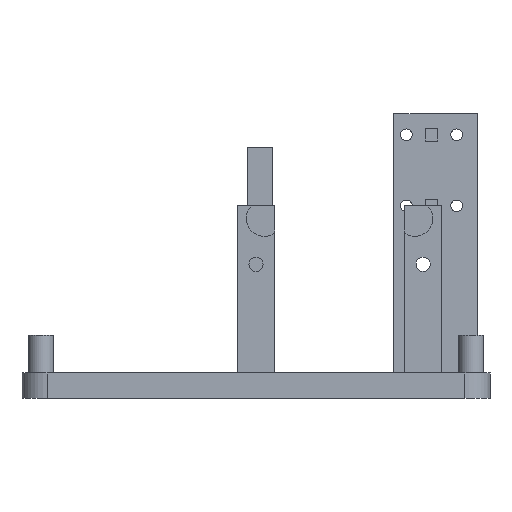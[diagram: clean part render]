
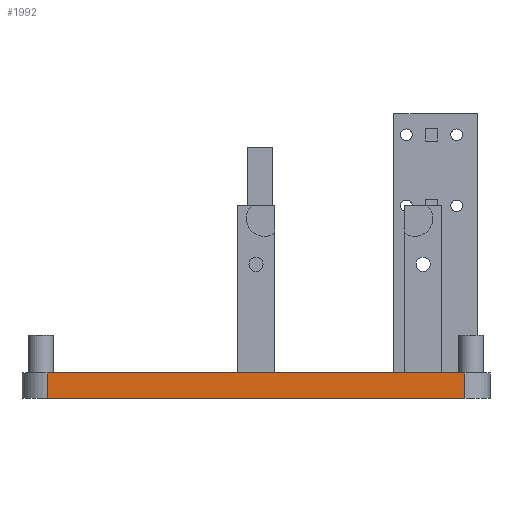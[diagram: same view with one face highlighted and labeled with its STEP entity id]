
A CAD part, front view. The second image highlights one B-rep face of the part: STEP entity #1992.
In plain terms, the highlighted planar face has unit normal (0, -1, 0).
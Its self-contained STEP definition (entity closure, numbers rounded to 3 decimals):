
#44 = PLANE('',#45);
#45 = AXIS2_PLACEMENT_3D('',#46,#47,#48);
#46 = CARTESIAN_POINT('',(-56.,-75.,6.));
#47 = DIRECTION('',(0.,0.,1.));
#48 = DIRECTION('',(1.,0.,0.));
#72 = CYLINDRICAL_SURFACE('',#73,6.);
#73 = AXIS2_PLACEMENT_3D('',#74,#75,#76);
#74 = CARTESIAN_POINT('',(-50.,-69.,0.));
#75 = DIRECTION('',(0.,0.,1.));
#76 = DIRECTION('',(-1.,-0.,0.));
#100 = PLANE('',#101);
#101 = AXIS2_PLACEMENT_3D('',#102,#103,#104);
#102 = CARTESIAN_POINT('',(-56.,-75.,0.));
#103 = DIRECTION('',(0.,0.,1.));
#104 = DIRECTION('',(1.,0.,0.));
#143 = VERTEX_POINT('',#144);
#144 = CARTESIAN_POINT('',(-50.,-75.,6.));
#166 = EDGE_CURVE('',#143,#167,#169,.T.);
#167 = VERTEX_POINT('',#168);
#168 = CARTESIAN_POINT('',(50.,-75.,6.));
#169 = SURFACE_CURVE('',#170,(#174,#181),.PCURVE_S1.);
#170 = LINE('',#171,#172);
#171 = CARTESIAN_POINT('',(-56.,-75.,6.));
#172 = VECTOR('',#173,1.);
#173 = DIRECTION('',(1.,0.,0.));
#174 = PCURVE('',#44,#175);
#175 = DEFINITIONAL_REPRESENTATION('',(#176),#180);
#176 = LINE('',#177,#178);
#177 = CARTESIAN_POINT('',(0.,0.));
#178 = VECTOR('',#179,1.);
#179 = DIRECTION('',(1.,0.));
#180 = ( GEOMETRIC_REPRESENTATION_CONTEXT(2) 
PARAMETRIC_REPRESENTATION_CONTEXT() REPRESENTATION_CONTEXT('2D SPACE',''
  ) );
#181 = PCURVE('',#182,#187);
#182 = PLANE('',#183);
#183 = AXIS2_PLACEMENT_3D('',#184,#185,#186);
#184 = CARTESIAN_POINT('',(-56.,-75.,0.));
#185 = DIRECTION('',(0.,1.,0.));
#186 = DIRECTION('',(0.,0.,1.));
#187 = DEFINITIONAL_REPRESENTATION('',(#188),#192);
#188 = LINE('',#189,#190);
#189 = CARTESIAN_POINT('',(6.,0.));
#190 = VECTOR('',#191,1.);
#191 = DIRECTION('',(0.,1.));
#192 = ( GEOMETRIC_REPRESENTATION_CONTEXT(2) 
PARAMETRIC_REPRESENTATION_CONTEXT() REPRESENTATION_CONTEXT('2D SPACE',''
  ) );
#215 = CYLINDRICAL_SURFACE('',#216,6.);
#216 = AXIS2_PLACEMENT_3D('',#217,#218,#219);
#217 = CARTESIAN_POINT('',(50.,-69.,0.));
#218 = DIRECTION('',(0.,0.,1.));
#219 = DIRECTION('',(1.,0.,-0.));
#1364 = VERTEX_POINT('',#1365);
#1365 = CARTESIAN_POINT('',(-50.,-75.,0.));
#1387 = EDGE_CURVE('',#1364,#143,#1388,.T.);
#1388 = SURFACE_CURVE('',#1389,(#1393,#1400),.PCURVE_S1.);
#1389 = LINE('',#1390,#1391);
#1390 = CARTESIAN_POINT('',(-50.,-75.,0.));
#1391 = VECTOR('',#1392,1.);
#1392 = DIRECTION('',(0.,0.,1.));
#1393 = PCURVE('',#72,#1394);
#1394 = DEFINITIONAL_REPRESENTATION('',(#1395),#1399);
#1395 = LINE('',#1396,#1397);
#1396 = CARTESIAN_POINT('',(1.571,0.));
#1397 = VECTOR('',#1398,1.);
#1398 = DIRECTION('',(0.,1.));
#1399 = ( GEOMETRIC_REPRESENTATION_CONTEXT(2) 
PARAMETRIC_REPRESENTATION_CONTEXT() REPRESENTATION_CONTEXT('2D SPACE',''
  ) );
#1400 = PCURVE('',#182,#1401);
#1401 = DEFINITIONAL_REPRESENTATION('',(#1402),#1406);
#1402 = LINE('',#1403,#1404);
#1403 = CARTESIAN_POINT('',(0.,6.));
#1404 = VECTOR('',#1405,1.);
#1405 = DIRECTION('',(1.,0.));
#1406 = ( GEOMETRIC_REPRESENTATION_CONTEXT(2) 
PARAMETRIC_REPRESENTATION_CONTEXT() REPRESENTATION_CONTEXT('2D SPACE',''
  ) );
#1469 = EDGE_CURVE('',#1364,#1470,#1472,.T.);
#1470 = VERTEX_POINT('',#1471);
#1471 = CARTESIAN_POINT('',(50.,-75.,0.));
#1472 = SURFACE_CURVE('',#1473,(#1477,#1484),.PCURVE_S1.);
#1473 = LINE('',#1474,#1475);
#1474 = CARTESIAN_POINT('',(-56.,-75.,0.));
#1475 = VECTOR('',#1476,1.);
#1476 = DIRECTION('',(1.,0.,0.));
#1477 = PCURVE('',#100,#1478);
#1478 = DEFINITIONAL_REPRESENTATION('',(#1479),#1483);
#1479 = LINE('',#1480,#1481);
#1480 = CARTESIAN_POINT('',(0.,0.));
#1481 = VECTOR('',#1482,1.);
#1482 = DIRECTION('',(1.,0.));
#1483 = ( GEOMETRIC_REPRESENTATION_CONTEXT(2) 
PARAMETRIC_REPRESENTATION_CONTEXT() REPRESENTATION_CONTEXT('2D SPACE',''
  ) );
#1484 = PCURVE('',#182,#1485);
#1485 = DEFINITIONAL_REPRESENTATION('',(#1486),#1490);
#1486 = LINE('',#1487,#1488);
#1487 = CARTESIAN_POINT('',(0.,0.));
#1488 = VECTOR('',#1489,1.);
#1489 = DIRECTION('',(0.,1.));
#1490 = ( GEOMETRIC_REPRESENTATION_CONTEXT(2) 
PARAMETRIC_REPRESENTATION_CONTEXT() REPRESENTATION_CONTEXT('2D SPACE',''
  ) );
#1992 = ADVANCED_FACE('',(#1993),#182,.F.);
#1993 = FACE_BOUND('',#1994,.F.);
#1994 = EDGE_LOOP('',(#1995,#1996,#1997,#1998));
#1995 = ORIENTED_EDGE('',*,*,#1469,.F.);
#1996 = ORIENTED_EDGE('',*,*,#1387,.T.);
#1997 = ORIENTED_EDGE('',*,*,#166,.T.);
#1998 = ORIENTED_EDGE('',*,*,#1999,.F.);
#1999 = EDGE_CURVE('',#1470,#167,#2000,.T.);
#2000 = SURFACE_CURVE('',#2001,(#2005,#2012),.PCURVE_S1.);
#2001 = LINE('',#2002,#2003);
#2002 = CARTESIAN_POINT('',(50.,-75.,0.));
#2003 = VECTOR('',#2004,1.);
#2004 = DIRECTION('',(0.,0.,1.));
#2005 = PCURVE('',#182,#2006);
#2006 = DEFINITIONAL_REPRESENTATION('',(#2007),#2011);
#2007 = LINE('',#2008,#2009);
#2008 = CARTESIAN_POINT('',(0.,106.));
#2009 = VECTOR('',#2010,1.);
#2010 = DIRECTION('',(1.,0.));
#2011 = ( GEOMETRIC_REPRESENTATION_CONTEXT(2) 
PARAMETRIC_REPRESENTATION_CONTEXT() REPRESENTATION_CONTEXT('2D SPACE',''
  ) );
#2012 = PCURVE('',#215,#2013);
#2013 = DEFINITIONAL_REPRESENTATION('',(#2014),#2018);
#2014 = LINE('',#2015,#2016);
#2015 = CARTESIAN_POINT('',(-1.571,0.));
#2016 = VECTOR('',#2017,1.);
#2017 = DIRECTION('',(-0.,1.));
#2018 = ( GEOMETRIC_REPRESENTATION_CONTEXT(2) 
PARAMETRIC_REPRESENTATION_CONTEXT() REPRESENTATION_CONTEXT('2D SPACE',''
  ) );
